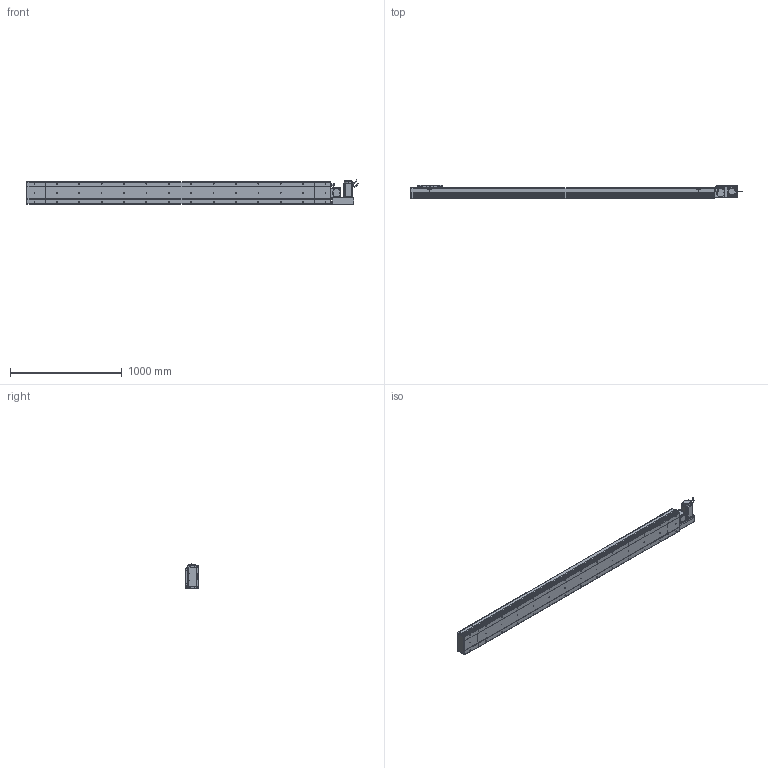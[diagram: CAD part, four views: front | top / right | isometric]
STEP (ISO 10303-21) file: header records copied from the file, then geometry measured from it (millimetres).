
FILE_DESCRIPTION (( 'STEP AP214' ), '1' );
FILE_NAME ('D20 CBH RH S2400.STEP', '2010-06-30T10:11:43', ( 'Conseil Régional Haute-Normandie' ), ( 'Conseil Régional Haute-Normandie' ), 'SwSTEP 2.0', 'SolidWorks 2010', '' );
FILE_SCHEMA (( 'AUTOMOTIVE_DESIGN' ));
Length unit declared in the file: millimetre
Products named in the file (31): Couvercle RH_Default; Corp Tail D20 RH_Default; Head D20 RH_Default; Support moteur RH_Default; Rondelle Cache D20 RH_Default; Plaque De Serrage D20 RH_Default; Plaque de Bout Head D20 RH_Default; avant 90BLDC125A-640; Moteur motionking 90BLDC125A-640; Conecteur_Default; Conecteur2_Default; codeur 90BLDC125-640; corps 90BLDC125A-640; Cache Support Moteur RH_Default; vis M5 L30_Default; ecrou_Default; Corp S2400_Default; Corp D20 S2400_Default; vis M5 L47_Default; Support Chariot D20_Default; Chariot D20_Default; Couvercle S2400_Default; D20 CBH RH S2400; vis M5 L15_Default; Plaque De Serrage D20_Default; Plaque de Bout Tail D20_Default; Couvercle_Default; Corp Tail D20_Default; Tail D20_Default; Glissiere_Default
Assembly tree (68 placements, depth 4):
  D20 CBH RH S2400
    Corp D20 S2400_Default
      Couvercle S2400_Default
      Corp S2400_Default
    Chariot D20_Default
      vis M5 L15_Default  x8
      Glissiere_Default
      Chariot D20_Default
      Support Chariot D20_Default
    Tail D20_Default
      vis M5 L15_Default  x6
      Couvercle_Default
      Plaque De Serrage D20_Default
      Plaque de Bout Tail D20_Default
      Corp Tail D20_Default
    Head D20 RH_Default
      vis M5 L15_Default  x14
      vis M5 L30_Default  x4
      ecrou_Default  x4
      vis M5 L47_Default  x4
      Plaque De Serrage D20 RH_Default
      Rondelle Cache D20 RH_Default  x3
      Couvercle RH_Default
      Corp Tail D20 RH_Default
      Moteur motionking 90BLDC125A-640
        Conecteur2_Default
        Conecteur_Default
        corps 90BLDC125A-640
        codeur 90BLDC125-640
        avant 90BLDC125A-640
      Plaque de Bout Head D20 RH_Default
      Cache Support Moteur RH_Default
      Support moteur RH_Default
Bounding box: 2965.45 x 119.5 x 229.7 mm (x, y, z)
Volume: 19451639.6 mm3; surface area: 3773047.2 mm2
Topology: 105 solids, 105 shells, 3835 faces, 9534 edges, 6190 vertices
Faces by surface type: plane 2134, bspline 806, cylinder 724, torus 95, cone 72, sphere 4
Entity records: 159902 total; most frequent: CARTESIAN_POINT 82391, ORIENTED_EDGE 15336, DIRECTION 11710, EDGE_CURVE 7668, VERTEX_POINT 5074, VECTOR 4948, LINE 4948, AXIS2_PLACEMENT_3D 3381
